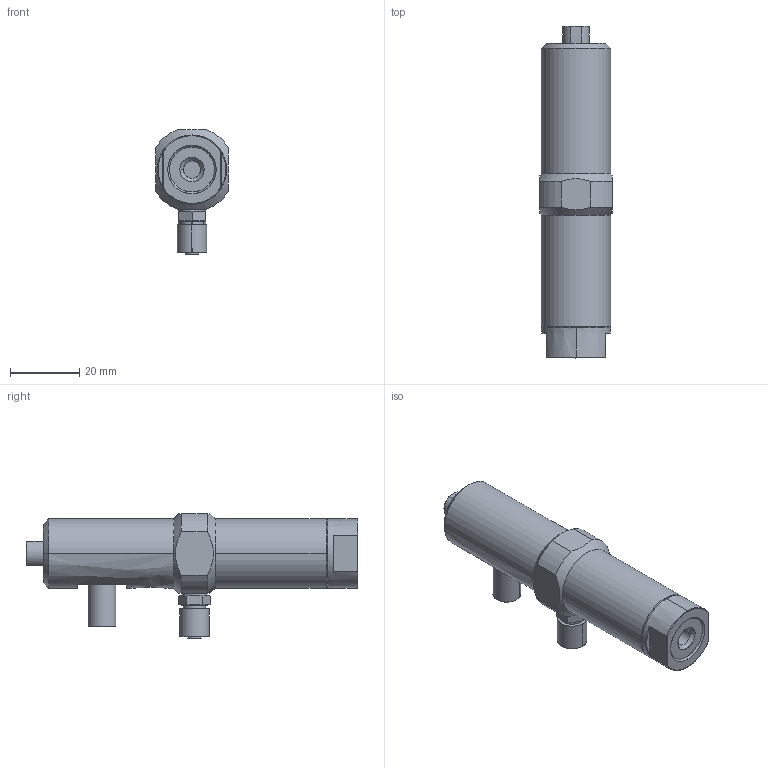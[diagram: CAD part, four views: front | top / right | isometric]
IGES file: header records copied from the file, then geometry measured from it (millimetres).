
Start section: SolidWorks IGES file using analytic representation for surfaces
Global section: file name: V:\WORK\08133\HP 寸法図\piston\ELV8\test_D98000A-000_defeature.IGS,15; native system: HSolidWorks 2018; preprocessor: SolidWorks 2018; author: n-udagawa; date: 230117.114433; units: millimetre
Bounding box: 21 x 96 x 36 mm (x, y, z)
Surface area: 7931.9 mm2 (no closed solid volume)
Topology: 0 solids, 0 shells, 103 faces, 1613 edges, 1843 vertices
Faces by surface type: revolution 67, bspline 36
